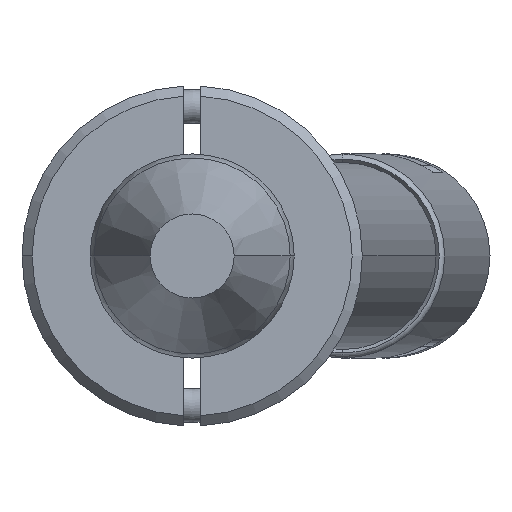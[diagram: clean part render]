
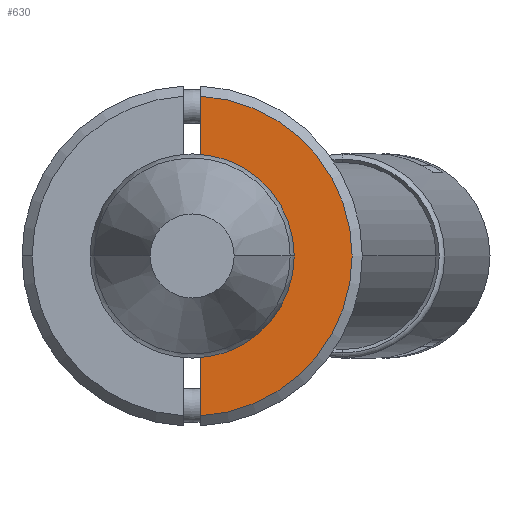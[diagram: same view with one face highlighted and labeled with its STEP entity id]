
A CAD part, front view. The second image highlights one B-rep face of the part: STEP entity #630.
In plain terms, the highlighted planar face has unit normal (0, -1, 0).
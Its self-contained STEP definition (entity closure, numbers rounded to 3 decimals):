
#5 = EDGE_CURVE ( 'NONE', #1893, #2648, #3035, .T. ) ;
#43 = DIRECTION ( 'NONE',  ( 0., 0., -1. ) ) ;
#155 = ORIENTED_EDGE ( 'NONE', *, *, #2038, .T. ) ;
#231 = VERTEX_POINT ( 'NONE', #2992 ) ;
#357 = DIRECTION ( 'NONE',  ( 0., -1., 0. ) ) ;
#494 = DIRECTION ( 'NONE',  ( 1., 0., 0. ) ) ;
#517 = EDGE_CURVE ( 'NONE', #1893, #2078, #2308, .T. ) ;
#630 = ADVANCED_FACE ( 'NONE', ( #1372 ), #1957, .T. ) ;
#679 = CARTESIAN_POINT ( 'NONE',  ( -5., -6., -0.25 ) ) ;
#718 = DIRECTION ( 'NONE',  ( 1., 0., 0. ) ) ;
#792 = LINE ( 'NONE', #3124, #3382 ) ;
#893 = ORIENTED_EDGE ( 'NONE', *, *, #2867, .T. ) ;
#1034 = AXIS2_PLACEMENT_3D ( 'NONE', #3610, #2094, #43 ) ;
#1139 = ORIENTED_EDGE ( 'NONE', *, *, #5, .F. ) ;
#1251 = AXIS2_PLACEMENT_3D ( 'NONE', #3740, #3173, #1704 ) ;
#1372 = FACE_OUTER_BOUND ( 'NONE', #1910, .T. ) ;
#1704 = DIRECTION ( 'NONE',  ( 0., 0., -1. ) ) ;
#1728 = VERTEX_POINT ( 'NONE', #2223 ) ;
#1780 = CARTESIAN_POINT ( 'NONE',  ( -4.693, -6., -0.25 ) ) ;
#1893 = VERTEX_POINT ( 'NONE', #1780 ) ;
#1910 = EDGE_LOOP ( 'NONE', ( #1139, #3151, #2356, #155, #893 ) ) ;
#1957 = PLANE ( 'NONE',  #1251 ) ;
#2013 = EDGE_CURVE ( 'NONE', #231, #2078, #792, .T. ) ;
#2038 = EDGE_CURVE ( 'NONE', #231, #1728, #2891, .T. ) ;
#2078 = VERTEX_POINT ( 'NONE', #2926 ) ;
#2094 = DIRECTION ( 'NONE',  ( 0., 1., 0. ) ) ;
#2223 = CARTESIAN_POINT ( 'NONE',  ( 0., -6., -2.45 ) ) ;
#2248 = VECTOR ( 'NONE', #718, 1000. ) ;
#2308 = CIRCLE ( 'NONE', #2994, 4.7 ) ;
#2356 = ORIENTED_EDGE ( 'NONE', *, *, #2013, .F. ) ;
#2458 = CIRCLE ( 'NONE', #1034, 2.45 ) ;
#2533 = CARTESIAN_POINT ( 'NONE',  ( 0., -6., 0. ) ) ;
#2648 = VERTEX_POINT ( 'NONE', #3441 ) ;
#2714 = DIRECTION ( 'NONE',  ( 0., 0., -1. ) ) ;
#2867 = EDGE_CURVE ( 'NONE', #1728, #2648, #2458, .T. ) ;
#2891 = CIRCLE ( 'NONE', #3319, 2.45 ) ;
#2926 = CARTESIAN_POINT ( 'NONE',  ( 4.693, -6., -0.25 ) ) ;
#2992 = CARTESIAN_POINT ( 'NONE',  ( 2.437, -6., -0.25 ) ) ;
#2994 = AXIS2_PLACEMENT_3D ( 'NONE', #2533, #357, #3485 ) ;
#3009 = DIRECTION ( 'NONE',  ( 0., 1., 0. ) ) ;
#3035 = LINE ( 'NONE', #679, #2248 ) ;
#3124 = CARTESIAN_POINT ( 'NONE',  ( -5., -6., -0.25 ) ) ;
#3151 = ORIENTED_EDGE ( 'NONE', *, *, #517, .T. ) ;
#3173 = DIRECTION ( 'NONE',  ( 0., -1., 0. ) ) ;
#3319 = AXIS2_PLACEMENT_3D ( 'NONE', #3821, #3009, #2714 ) ;
#3382 = VECTOR ( 'NONE', #494, 1000. ) ;
#3441 = CARTESIAN_POINT ( 'NONE',  ( -2.437, -6., -0.25 ) ) ;
#3485 = DIRECTION ( 'NONE',  ( 0., 0., -1. ) ) ;
#3610 = CARTESIAN_POINT ( 'NONE',  ( 0., -6., 0. ) ) ;
#3740 = CARTESIAN_POINT ( 'NONE',  ( -5., -6., 0. ) ) ;
#3821 = CARTESIAN_POINT ( 'NONE',  ( 0., -6., 0. ) ) ;
